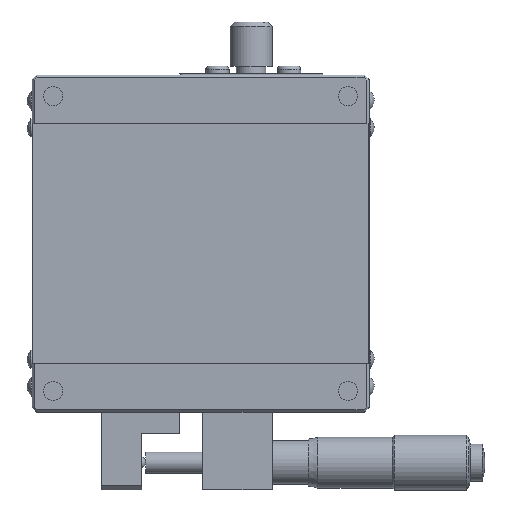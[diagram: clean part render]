
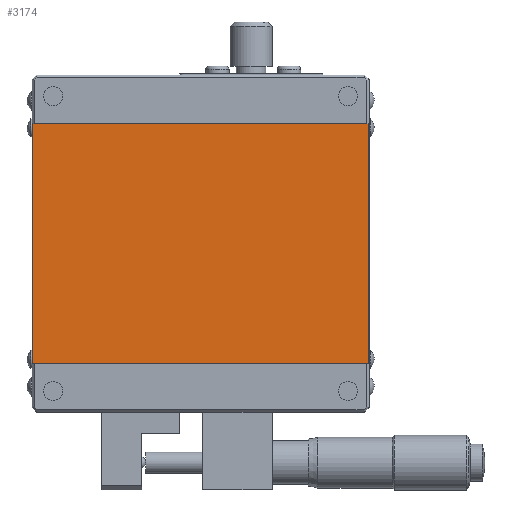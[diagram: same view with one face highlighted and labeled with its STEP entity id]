
A CAD part, front view. The second image highlights one B-rep face of the part: STEP entity #3174.
In plain terms, the highlighted planar face has unit normal (0, -1, 0).
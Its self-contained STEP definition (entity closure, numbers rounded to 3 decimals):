
#576=ORIENTED_EDGE('',*,*,#1238,.T.);
#577=ORIENTED_EDGE('',*,*,#1277,.T.);
#578=ORIENTED_EDGE('',*,*,#1242,.T.);
#579=ORIENTED_EDGE('',*,*,#1276,.F.);
#1238=EDGE_CURVE('',#1621,#1622,#1922,.F.);
#1242=EDGE_CURVE('',#1624,#1623,#1926,.F.);
#1276=EDGE_CURVE('',#1621,#1623,#1944,.T.);
#1277=EDGE_CURVE('',#1622,#1624,#1945,.T.);
#1621=VERTEX_POINT('',#5063);
#1622=VERTEX_POINT('',#5066);
#1623=VERTEX_POINT('',#5074);
#1624=VERTEX_POINT('',#5076);
#1922=LINE('',#5067,#2164);
#1926=LINE('',#5075,#2168);
#1944=LINE('',#5150,#2186);
#1945=LINE('',#5152,#2187);
#2164=VECTOR('',#3975,1000.);
#2168=VECTOR('',#3985,1000.);
#2186=VECTOR('',#4091,1000.);
#2187=VECTOR('',#4094,1000.);
#2376=EDGE_LOOP('',(#576,#577,#578,#579));
#2718=FACE_BOUND('',#2376,.T.);
#3028=PLANE('',#3474);
#3174=ADVANCED_FACE('',(#2718),#3028,.F.);
#3474=AXIS2_PLACEMENT_3D('',#5151,#4092,#4093);
#3975=DIRECTION('',(0.,0.,-1.));
#3985=DIRECTION('',(0.,0.,1.));
#4091=DIRECTION('',(-1.,0.,0.));
#4092=DIRECTION('',(0.,1.,0.));
#4093=DIRECTION('',(0.,0.,1.));
#4094=DIRECTION('',(-1.,0.,0.));
#5063=CARTESIAN_POINT('',(39.8,0.3,-28.5));
#5066=CARTESIAN_POINT('',(39.8,0.3,28.5));
#5067=CARTESIAN_POINT('',(39.8,0.3,39.));
#5074=CARTESIAN_POINT('',(-39.8,0.3,-28.5));
#5075=CARTESIAN_POINT('',(-39.8,0.3,-39.));
#5076=CARTESIAN_POINT('',(-39.8,0.3,28.5));
#5150=CARTESIAN_POINT('',(40.,0.3,-28.5));
#5151=CARTESIAN_POINT('',(40.,0.3,28.5));
#5152=CARTESIAN_POINT('',(40.,0.3,28.5));
